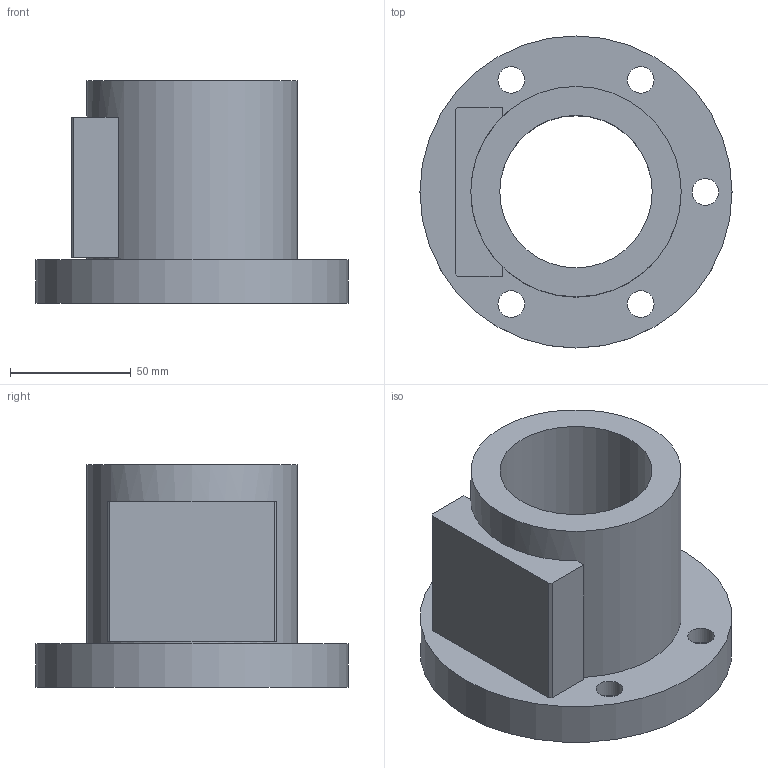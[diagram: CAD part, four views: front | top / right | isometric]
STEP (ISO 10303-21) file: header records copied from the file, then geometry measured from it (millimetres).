
FILE_DESCRIPTION(/* description */ (''),/* implementation_level */ '2;1');
FILE_NAME(/* name */ '63-8A3',/* time_stamp */ '2006-07-31T11:58:55+08:00',/* author */ (''),/* organization */ (''),/* preprocessor_version */ 'ST-DEVELOPER v9',/* originating_system */ 'UGS - NX 4.0',/* authorisation */ '');
FILE_SCHEMA (('CONFIG_CONTROL_DESIGN'));
Length unit declared in the file: millimetre
Products named in the file (1): 63-8A3
Bounding box: 129 x 129 x 92 mm (x, y, z)
Volume: 418681.9 mm3; surface area: 73243.7 mm2
Topology: 1 solids, 1 shells, 30 faces, 67 edges, 46 vertices
Faces by surface type: plane 17, cylinder 13
Full cylindrical faces by diameter (mm): 11 x5, 17.5 x5, 63 x1, 87 x1, 129 x1
Entity records: 860 total; most frequent: DIRECTION 140, CARTESIAN_POINT 123, ORIENTED_EDGE 100, EDGE_LOOP 62, AXIS2_PLACEMENT_3D 59, EDGE_CURVE 50, FACE_BOUND 45, VERTEX_POINT 42
